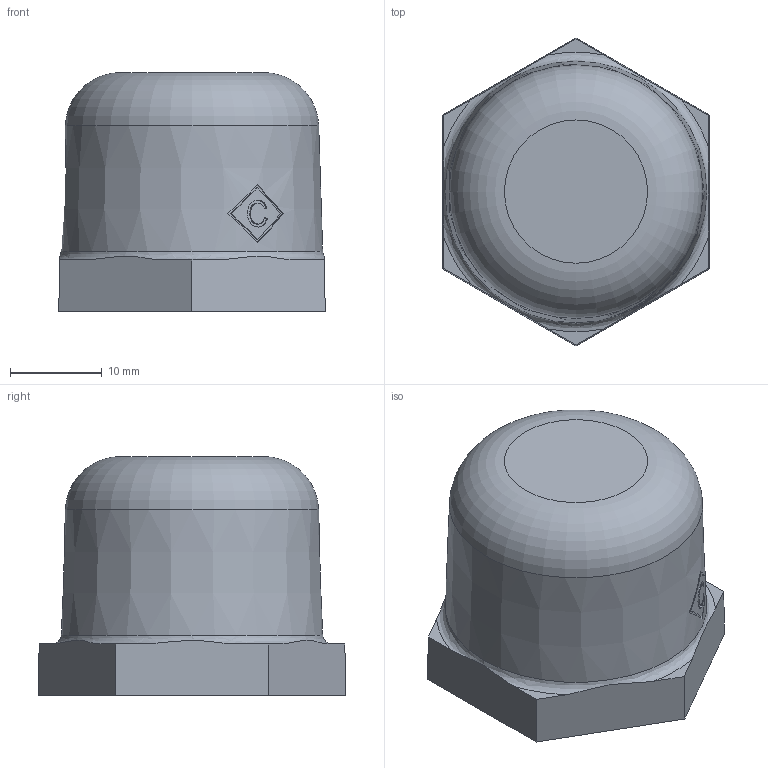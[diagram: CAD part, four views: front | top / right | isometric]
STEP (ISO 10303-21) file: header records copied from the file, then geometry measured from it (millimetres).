
FILE_DESCRIPTION((''),'2;1');
FILE_NAME('P:\Fastrack\53909_CRANE\Crane\Fig.185 Cap\New 0.50 inch\185-0.50.stp','2009-09-17T08:53:22',('btaylor'),(''),'Autodesk Inventor 2008','Autodesk Inventor 2008','');
FILE_SCHEMA(('AUTOMOTIVE_DESIGN { 1 0 10303 214 1 1 1 1 }'));
Length unit declared in the file: millimetre
Products named in the file (1): 185-0.50
Bounding box: 29 x 33.49 x 26 mm (x, y, z)
Volume: 11139.7 mm3; surface area: 4414.2 mm2
Topology: 1 solids, 1 shells, 42 faces, 104 edges, 68 vertices
Faces by surface type: plane 25, bspline 10, cone 6, torus 1
Entity records: 1684 total; most frequent: CARTESIAN_POINT 720, ORIENTED_EDGE 194, DIRECTION 174, EDGE_CURVE 97, VERTEX_POINT 67, AXIS2_PLACEMENT_3D 66, EDGE_LOOP 52, FACE_OUTER_BOUND 42
